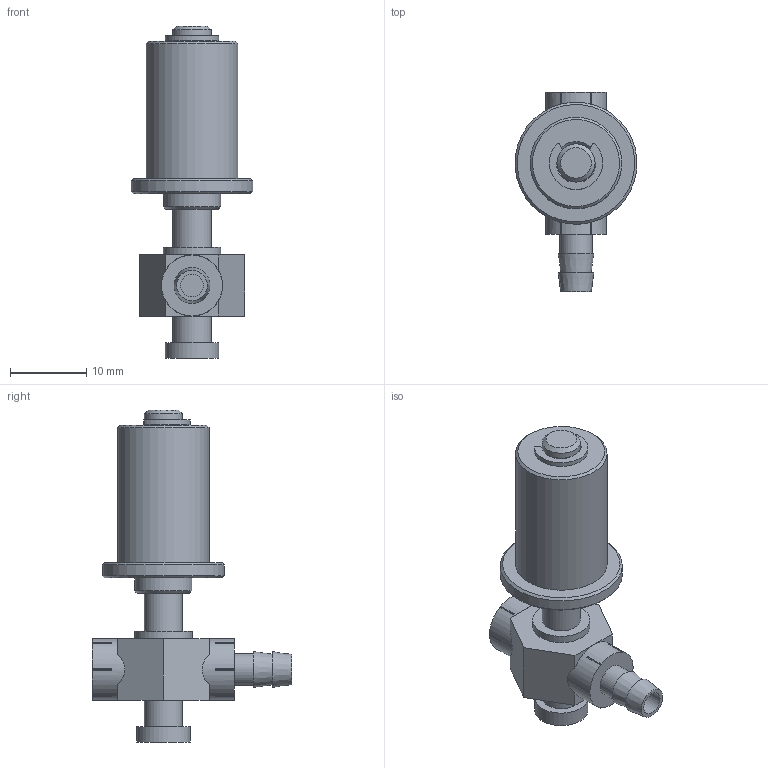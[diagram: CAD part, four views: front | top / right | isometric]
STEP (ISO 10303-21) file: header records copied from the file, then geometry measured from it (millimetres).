
FILE_DESCRIPTION (( 'STEP AP203' ), '1' );
FILE_NAME ('VFIL2-SS-5-P12.STEP', '2019-08-29T10:56:27', ( '' ), ( '' ), 'SwSTEP 2.0', 'SolidWorks 2018', '' );
FILE_SCHEMA (( 'CONFIG_CONTROL_DESIGN' ));
Length unit declared in the file: millimetre
Products named in the file (2): VFIL2-SS-5-P12
Bounding box: 15.97 x 26.1 x 43.5 mm (x, y, z)
Volume: 4205.6 mm3; surface area: 3165.6 mm2
Topology: 3 solids, 3 shells, 111 faces, 265 edges, 173 vertices
Faces by surface type: plane 74, cylinder 28, cone 9
Full cylindrical faces by diameter (mm): 2.5 x1, 3 x2, 4.2 x1, 5 x4, 7 x1, 7.5 x2, 8 x2, 12 x1, 16 x1
Entity records: 3259 total; most frequent: CARTESIAN_POINT 570, DIRECTION 550, ORIENTED_EDGE 474, EDGE_CURVE 237, AXIS2_PLACEMENT_3D 205, VERTEX_POINT 169, EDGE_LOOP 150, VECTOR 140
